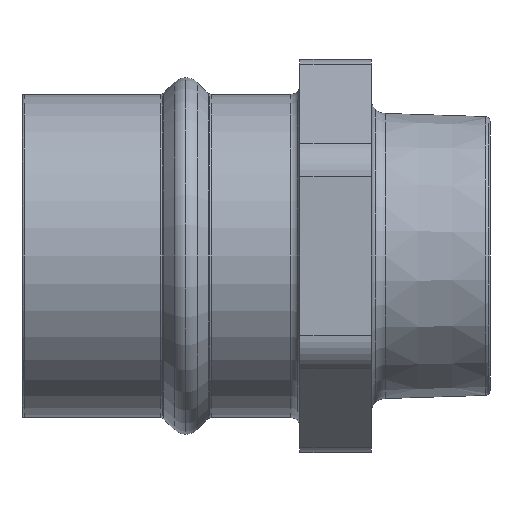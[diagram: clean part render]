
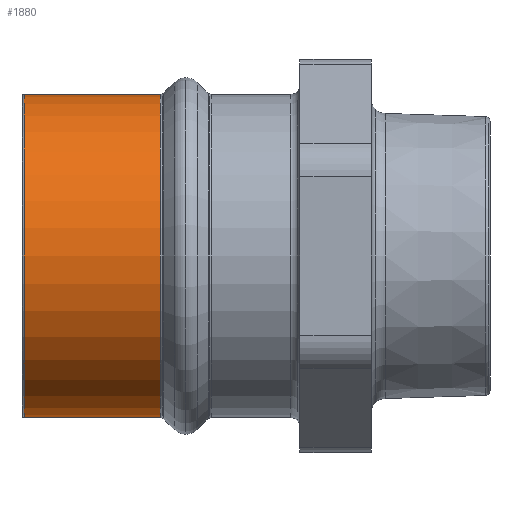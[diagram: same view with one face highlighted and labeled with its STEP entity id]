
A CAD part, front view. The second image highlights one B-rep face of the part: STEP entity #1880.
In plain terms, the highlighted cylindrical face has radius 34.252 mm (diameter 68.504 mm), a partial arc.
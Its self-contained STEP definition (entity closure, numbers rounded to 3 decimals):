
#655=CARTESIAN_POINT('',(29.352,0.,0.));
#656=DIRECTION('',(-1.,0.,0.));
#657=DIRECTION('',(0.,0.,-1.));
#658=AXIS2_PLACEMENT_3D('',#655,#656,#657);
#679=DIRECTION('',(1.,0.,0.));
#680=VECTOR('',#679,28.848);
#681=CARTESIAN_POINT('',(0.504,0.,34.252));
#682=LINE('',#681,#680);
#686=CARTESIAN_POINT('',(0.504,0.,0.));
#687=DIRECTION('',(1.,0.,0.));
#688=DIRECTION('',(0.,0.,1.));
#689=AXIS2_PLACEMENT_3D('',#686,#687,#688);
#718=DIRECTION('',(1.,0.,0.));
#719=VECTOR('',#718,28.848);
#720=CARTESIAN_POINT('',(0.504,0.,-34.252));
#721=LINE('',#720,#719);
#1247=CARTESIAN_POINT('',(0.504,0.,34.252));
#1248=CARTESIAN_POINT('',(0.504,0.,-34.252));
#1249=VERTEX_POINT('',#1247);
#1250=VERTEX_POINT('',#1248);
#1251=CARTESIAN_POINT('',(29.352,0.,34.252));
#1252=VERTEX_POINT('',#1251);
#1253=CARTESIAN_POINT('',(29.352,0.,-34.252));
#1254=VERTEX_POINT('',#1253);
#1866=CARTESIAN_POINT('',(103.763,0.,0.));
#1867=DIRECTION('',(-1.,0.,0.));
#1868=DIRECTION('',(0.,0.,1.));
#1869=AXIS2_PLACEMENT_3D('',#1866,#1867,#1868);
#1870=CYLINDRICAL_SURFACE('',#1869,34.252);
#1872=ORIENTED_EDGE('',*,*,#1871,.F.);
#1874=ORIENTED_EDGE('',*,*,#1873,.T.);
#1875=ORIENTED_EDGE('',*,*,#1856,.F.);
#1877=ORIENTED_EDGE('',*,*,#1876,.F.);
#1878=EDGE_LOOP('',(#1872,#1874,#1875,#1877));
#1879=FACE_OUTER_BOUND('',#1878,.F.);
#659=CIRCLE('',#658,34.252);
#690=CIRCLE('',#689,34.252);
#1856=EDGE_CURVE('',#1254,#1252,#659,.T.);
#1871=EDGE_CURVE('',#1249,#1250,#690,.T.);
#1873=EDGE_CURVE('',#1249,#1252,#682,.T.);
#1876=EDGE_CURVE('',#1250,#1254,#721,.T.);
#1880=ADVANCED_FACE('',(#1879),#1870,.T.);
